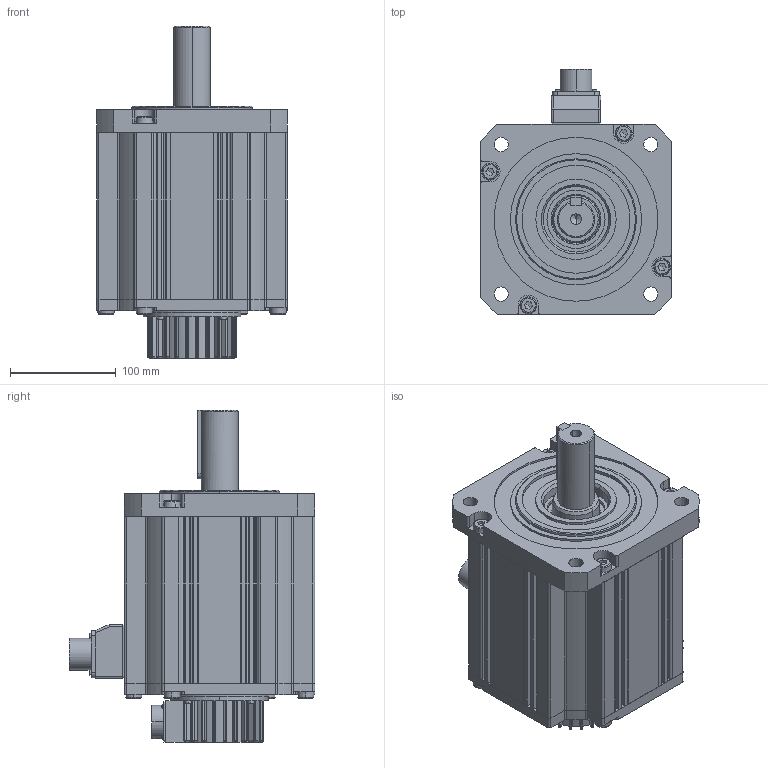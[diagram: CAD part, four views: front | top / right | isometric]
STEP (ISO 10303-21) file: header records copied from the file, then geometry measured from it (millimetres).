
FILE_DESCRIPTION (( 'STEP AP203' ), '1' );
FILE_NAME ('R180-4500W.STEP', '2018-09-11T10:46:10', ( '1' ), ( 'MideaGroup IT' ), 'SwSTEP 2.0', 'SolidWorks 2012', '' );
FILE_SCHEMA (( 'CONFIG_CONTROL_DESIGN' ));
Length unit declared in the file: millimetre
Products named in the file (21): R180-4500W; M3X10_GB_FASTENER_SCREWS_HSHCS M3X10-C; M2.6X7_GB_CROSS_SCREWS_TYPE3 M2.5X6-6-N; GB_HEXAGON_TYPE21 M10X16-16-N_GB_HEXAGON_TYPE21 M10X16-16-N; す瑩-10X8X65; 130-綴裔; 綴裔躇猾菜; 晤鎢ん瑤脣; 侜督萇儂窒璃; 蛌赽軞傖; 綴傷裔-0018; deep groove ball bearings gb_Rolling bearings 6209 GB 276-94; 蛌赽郪璃; 180-粣; 180-ヶ傷裔; 隅赽軞傖; 踡隅蹟隊M8; 萇埭盄瑤脣; 180-瑤脣; 瑤脣釱躇猾菜; 180-儂褲
Assembly tree (37 placements, depth 5):
  R180-4500W
    侜督萇儂窒璃
      隅赽軞傖
        180-儂褲
        瑤脣釱躇猾菜
        180-瑤脣
        萇埭盄瑤脣
        踡隅蹟隊M8
      180-ヶ傷裔
      蛌赽軞傖
        蛌赽郪璃
          180-粣
        deep groove ball bearings gb_Rolling bearings 6209 GB 276-94
        綴傷裔-0018
    晤鎢ん瑤脣
    綴裔躇猾菜
    130-綴裔
    す瑩-10X8X65
    GB_HEXAGON_TYPE21 M10X16-16-N_GB_HEXAGON_TYPE21 M10X16-16-N  x8
    M2.6X7_GB_CROSS_SCREWS_TYPE3 M2.5X6-6-N  x8
    M3X10_GB_FASTENER_SCREWS_HSHCS M3X10-C  x4
Bounding box: 180 x 232.15 x 314 mm (x, y, z)
Volume: 4466973.7 mm3; surface area: 625571.2 mm2
Topology: 34 solids, 34 shells, 2054 faces, 5540 edges, 3571 vertices
Faces by surface type: plane 802, cylinder 780, bspline 155, sphere 138, torus 112, cone 67
Entity records: 65298 total; most frequent: CARTESIAN_POINT 19955, ORIENTED_EDGE 9000, DIRECTION 8829, EDGE_CURVE 4500, AXIS2_PLACEMENT_3D 3313, VERTEX_POINT 2929, VECTOR 2203, LINE 2203
